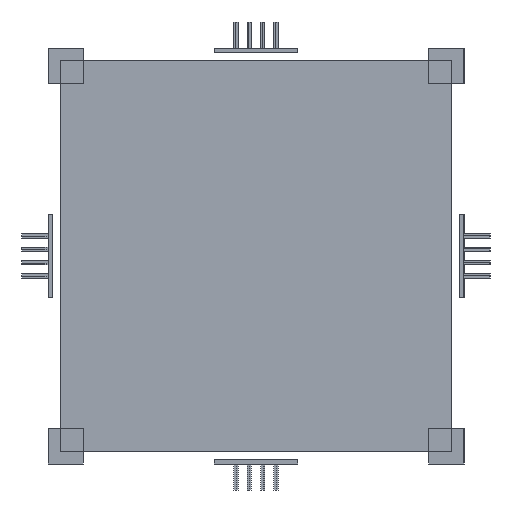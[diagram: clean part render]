
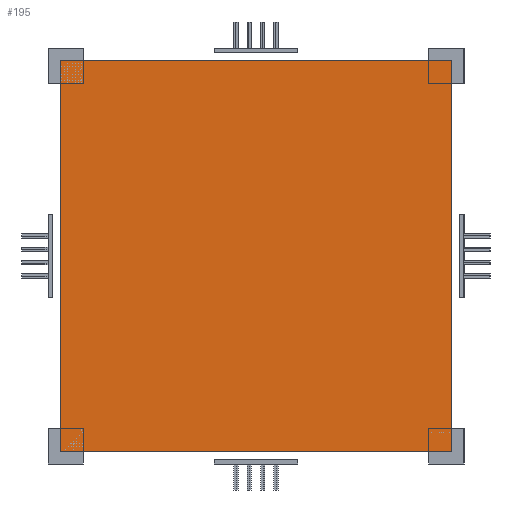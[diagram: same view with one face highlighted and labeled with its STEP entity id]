
A CAD part, left-side view. The second image highlights one B-rep face of the part: STEP entity #195.
In plain terms, the highlighted planar face has unit normal (-1, 0, 0).
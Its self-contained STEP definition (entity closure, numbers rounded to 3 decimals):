
#195 = ADVANCED_FACE('',(#196),#210,.F.);
#196 = FACE_BOUND('',#197,.F.);
#197 = EDGE_LOOP('',(#198,#233,#261,#289));
#198 = ORIENTED_EDGE('',*,*,#199,.F.);
#199 = EDGE_CURVE('',#200,#202,#204,.T.);
#200 = VERTEX_POINT('',#201);
#201 = CARTESIAN_POINT('',(0.,-47.,-47.));
#202 = VERTEX_POINT('',#203);
#203 = CARTESIAN_POINT('',(0.,-47.,47.));
#204 = SURFACE_CURVE('',#205,(#209,#221),.PCURVE_S1.);
#205 = LINE('',#206,#207);
#206 = CARTESIAN_POINT('',(0.,-47.,-47.));
#207 = VECTOR('',#208,1.);
#208 = DIRECTION('',(0.,0.,1.));
#209 = PCURVE('',#210,#215);
#210 = PLANE('',#211);
#211 = AXIS2_PLACEMENT_3D('',#212,#213,#214);
#212 = CARTESIAN_POINT('',(0.,-47.,-47.));
#213 = DIRECTION('',(1.,0.,0.));
#214 = DIRECTION('',(0.,0.,1.));
#215 = DEFINITIONAL_REPRESENTATION('',(#216),#220);
#216 = LINE('',#217,#218);
#217 = CARTESIAN_POINT('',(0.,0.));
#218 = VECTOR('',#219,1.);
#219 = DIRECTION('',(1.,0.));
#220 = ( GEOMETRIC_REPRESENTATION_CONTEXT(2) 
PARAMETRIC_REPRESENTATION_CONTEXT() REPRESENTATION_CONTEXT('2D SPACE',''
  ) );
#221 = PCURVE('',#222,#227);
#222 = PLANE('',#223);
#223 = AXIS2_PLACEMENT_3D('',#224,#225,#226);
#224 = CARTESIAN_POINT('',(0.,-47.,-47.));
#225 = DIRECTION('',(0.,1.,0.));
#226 = DIRECTION('',(0.,0.,1.));
#227 = DEFINITIONAL_REPRESENTATION('',(#228),#232);
#228 = LINE('',#229,#230);
#229 = CARTESIAN_POINT('',(0.,0.));
#230 = VECTOR('',#231,1.);
#231 = DIRECTION('',(1.,0.));
#232 = ( GEOMETRIC_REPRESENTATION_CONTEXT(2) 
PARAMETRIC_REPRESENTATION_CONTEXT() REPRESENTATION_CONTEXT('2D SPACE',''
  ) );
#233 = ORIENTED_EDGE('',*,*,#234,.T.);
#234 = EDGE_CURVE('',#200,#235,#237,.T.);
#235 = VERTEX_POINT('',#236);
#236 = CARTESIAN_POINT('',(0.,47.,-47.));
#237 = SURFACE_CURVE('',#238,(#242,#249),.PCURVE_S1.);
#238 = LINE('',#239,#240);
#239 = CARTESIAN_POINT('',(0.,-47.,-47.));
#240 = VECTOR('',#241,1.);
#241 = DIRECTION('',(0.,1.,0.));
#242 = PCURVE('',#210,#243);
#243 = DEFINITIONAL_REPRESENTATION('',(#244),#248);
#244 = LINE('',#245,#246);
#245 = CARTESIAN_POINT('',(0.,0.));
#246 = VECTOR('',#247,1.);
#247 = DIRECTION('',(0.,-1.));
#248 = ( GEOMETRIC_REPRESENTATION_CONTEXT(2) 
PARAMETRIC_REPRESENTATION_CONTEXT() REPRESENTATION_CONTEXT('2D SPACE',''
  ) );
#249 = PCURVE('',#250,#255);
#250 = PLANE('',#251);
#251 = AXIS2_PLACEMENT_3D('',#252,#253,#254);
#252 = CARTESIAN_POINT('',(0.,-47.,-47.));
#253 = DIRECTION('',(0.,0.,1.));
#254 = DIRECTION('',(1.,0.,0.));
#255 = DEFINITIONAL_REPRESENTATION('',(#256),#260);
#256 = LINE('',#257,#258);
#257 = CARTESIAN_POINT('',(0.,0.));
#258 = VECTOR('',#259,1.);
#259 = DIRECTION('',(0.,1.));
#260 = ( GEOMETRIC_REPRESENTATION_CONTEXT(2) 
PARAMETRIC_REPRESENTATION_CONTEXT() REPRESENTATION_CONTEXT('2D SPACE',''
  ) );
#261 = ORIENTED_EDGE('',*,*,#262,.T.);
#262 = EDGE_CURVE('',#235,#263,#265,.T.);
#263 = VERTEX_POINT('',#264);
#264 = CARTESIAN_POINT('',(0.,47.,47.));
#265 = SURFACE_CURVE('',#266,(#270,#277),.PCURVE_S1.);
#266 = LINE('',#267,#268);
#267 = CARTESIAN_POINT('',(0.,47.,-47.));
#268 = VECTOR('',#269,1.);
#269 = DIRECTION('',(0.,0.,1.));
#270 = PCURVE('',#210,#271);
#271 = DEFINITIONAL_REPRESENTATION('',(#272),#276);
#272 = LINE('',#273,#274);
#273 = CARTESIAN_POINT('',(0.,-94.));
#274 = VECTOR('',#275,1.);
#275 = DIRECTION('',(1.,0.));
#276 = ( GEOMETRIC_REPRESENTATION_CONTEXT(2) 
PARAMETRIC_REPRESENTATION_CONTEXT() REPRESENTATION_CONTEXT('2D SPACE',''
  ) );
#277 = PCURVE('',#278,#283);
#278 = PLANE('',#279);
#279 = AXIS2_PLACEMENT_3D('',#280,#281,#282);
#280 = CARTESIAN_POINT('',(0.,47.,-47.));
#281 = DIRECTION('',(0.,1.,0.));
#282 = DIRECTION('',(0.,0.,1.));
#283 = DEFINITIONAL_REPRESENTATION('',(#284),#288);
#284 = LINE('',#285,#286);
#285 = CARTESIAN_POINT('',(0.,0.));
#286 = VECTOR('',#287,1.);
#287 = DIRECTION('',(1.,0.));
#288 = ( GEOMETRIC_REPRESENTATION_CONTEXT(2) 
PARAMETRIC_REPRESENTATION_CONTEXT() REPRESENTATION_CONTEXT('2D SPACE',''
  ) );
#289 = ORIENTED_EDGE('',*,*,#290,.F.);
#290 = EDGE_CURVE('',#202,#263,#291,.T.);
#291 = SURFACE_CURVE('',#292,(#296,#303),.PCURVE_S1.);
#292 = LINE('',#293,#294);
#293 = CARTESIAN_POINT('',(0.,-47.,47.));
#294 = VECTOR('',#295,1.);
#295 = DIRECTION('',(0.,1.,0.));
#296 = PCURVE('',#210,#297);
#297 = DEFINITIONAL_REPRESENTATION('',(#298),#302);
#298 = LINE('',#299,#300);
#299 = CARTESIAN_POINT('',(94.,0.));
#300 = VECTOR('',#301,1.);
#301 = DIRECTION('',(0.,-1.));
#302 = ( GEOMETRIC_REPRESENTATION_CONTEXT(2) 
PARAMETRIC_REPRESENTATION_CONTEXT() REPRESENTATION_CONTEXT('2D SPACE',''
  ) );
#303 = PCURVE('',#304,#309);
#304 = PLANE('',#305);
#305 = AXIS2_PLACEMENT_3D('',#306,#307,#308);
#306 = CARTESIAN_POINT('',(0.,-47.,47.));
#307 = DIRECTION('',(0.,0.,1.));
#308 = DIRECTION('',(1.,0.,0.));
#309 = DEFINITIONAL_REPRESENTATION('',(#310),#314);
#310 = LINE('',#311,#312);
#311 = CARTESIAN_POINT('',(0.,0.));
#312 = VECTOR('',#313,1.);
#313 = DIRECTION('',(0.,1.));
#314 = ( GEOMETRIC_REPRESENTATION_CONTEXT(2) 
PARAMETRIC_REPRESENTATION_CONTEXT() REPRESENTATION_CONTEXT('2D SPACE',''
  ) );
